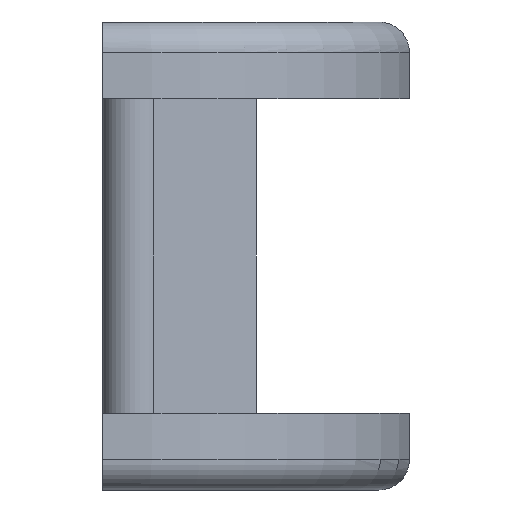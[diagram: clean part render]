
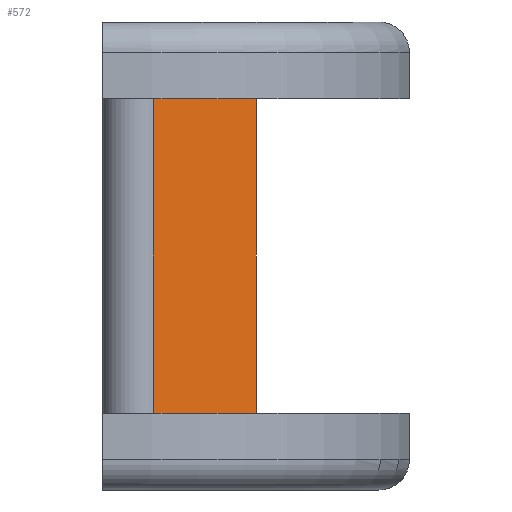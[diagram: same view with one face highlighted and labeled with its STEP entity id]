
A CAD part, front view. The second image highlights one B-rep face of the part: STEP entity #572.
In plain terms, the highlighted planar face has unit normal (0.658, -0.753, 0).
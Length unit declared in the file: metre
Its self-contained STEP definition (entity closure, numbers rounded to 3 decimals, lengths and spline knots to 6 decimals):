
#55=LINE('',#914,#105);
#66=LINE('',#943,#116);
#67=LINE('',#946,#117);
#68=LINE('',#947,#118);
#105=VECTOR('',#727,1.);
#116=VECTOR('',#754,1.);
#117=VECTOR('',#755,1.);
#118=VECTOR('',#756,1.);
#196=ORIENTED_EDGE('',*,*,#339,.F.);
#197=ORIENTED_EDGE('',*,*,#340,.T.);
#198=ORIENTED_EDGE('',*,*,#324,.T.);
#199=ORIENTED_EDGE('',*,*,#341,.F.);
#324=EDGE_CURVE('',#399,#398,#55,.T.);
#339=EDGE_CURVE('',#409,#410,#66,.T.);
#340=EDGE_CURVE('',#409,#399,#67,.T.);
#341=EDGE_CURVE('',#410,#398,#68,.T.);
#398=VERTEX_POINT('',#913);
#399=VERTEX_POINT('',#915);
#409=VERTEX_POINT('',#944);
#410=VERTEX_POINT('',#945);
#467=EDGE_LOOP('',(#196,#197,#198,#199));
#513=FACE_BOUND('',#467,.T.);
#554=PLANE('',#631);
#572=ADVANCED_FACE('',(#513),#554,.F.);
#631=AXIS2_PLACEMENT_3D('',#942,#752,#753);
#727=DIRECTION('',(0.753,0.659,0.));
#752=DIRECTION('',(-0.659,0.753,0.));
#753=DIRECTION('',(-0.753,-0.659,0.));
#754=DIRECTION('',(0.753,0.659,0.));
#755=DIRECTION('',(0.,0.,-1.));
#756=DIRECTION('',(0.,0.,-1.));
#913=CARTESIAN_POINT('',(0.,-0.027781,0.));
#914=CARTESIAN_POINT('',(-0.003175,-0.030559,0.));
#915=CARTESIAN_POINT('',(-0.004244,-0.031494,0.));
#942=CARTESIAN_POINT('',(-0.003175,-0.030559,0.013018));
#943=CARTESIAN_POINT('',(-0.003175,-0.030559,0.013018));
#944=CARTESIAN_POINT('',(-0.004244,-0.031494,0.013018));
#945=CARTESIAN_POINT('',(0.,-0.027781,0.013018));
#946=CARTESIAN_POINT('',(-0.004244,-0.031494,0.013018));
#947=CARTESIAN_POINT('',(0.,-0.027781,0.013018));
